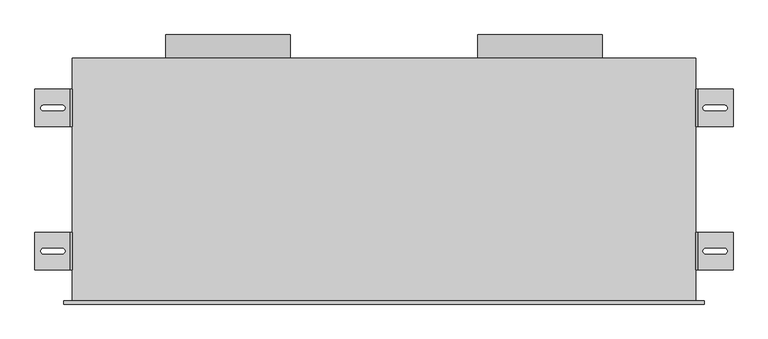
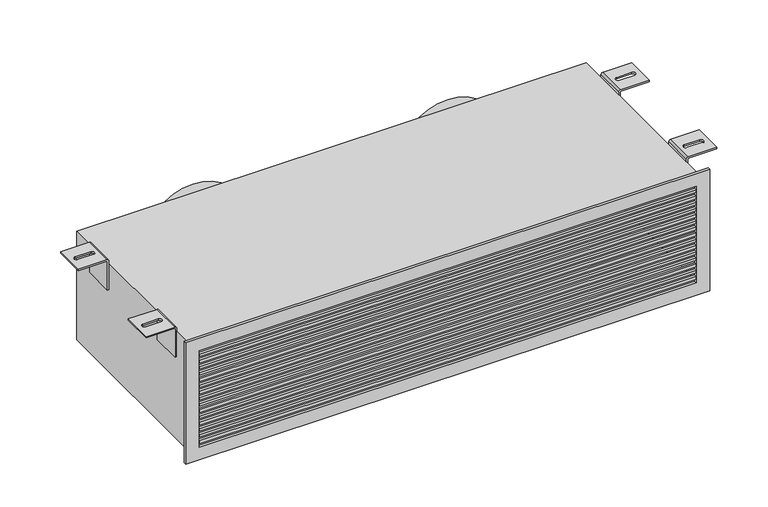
"""IFC4 building model written with IfcOpenShell, lengths in millimetres: air terminal geometry, EOL - Mural - 2 piquages : EOL-M2x200-1000x225-2."""

from ifc_helpers import new_model, si_unit, point, frame, frame_2d, origin, place, context, project, spatial, polyline, circle_curve, ellipse_curve, trimmed, segment, composite_curve, outline, extrude, source, transform, mapped, element, save
from ifc_brep_helpers import plane_surface, cylinder_surface, revolved_surface, extruded_surface, advanced_brep


def air_terminal_3425a1ed(model_context):
    return source(origin(), model_context, "Body", "SolidModel", [
        advanced_brep(
        [(504.0013366, 110.0, 121.5), (560.0, 110.0, 121.5), (560.0, 110.0, 118.5), (504.0, 110.0, 118.5), (503.0, 110.0, 117.5), (503.0, 110.0, 58.5), (500.0, 110.0, 58.5), (500.0, 110.0, 117.4986634), (504.0013366, 50.0, 121.5), (500.0, 50.0, 117.4986634), (500.0, 50.0, 58.5), (503.0, 50.0, 58.5), (503.0, 50.0, 117.5), (504.0, 50.0, 118.5), (560.0, 50.0, 118.5), (560.0, 50.0, 121.5), (546.0287952, 75.4804328, 121.5), (516.0287952, 75.4804328, 121.5), (516.0287952, 84.4804328, 121.5), (546.0287952, 84.4804328, 121.5), (516.0287952, 75.4804328, 118.5), (546.0287952, 75.4804328, 118.5), (546.0287952, 84.4804328, 118.5), (516.0287952, 84.4804328, 118.5)],
        [
            (0, 1),
            (1, 2),
            (2, 3),
            (3, 4, circle_curve(frame((504.0, 110.0, 117.5), z_axis=(0.0, -1.0, 0.0), x_axis=(-1.0000000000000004, 0.0, 0.0)), 1.0)),
            (4, 5),
            (5, 6),
            (6, 7),
            (7, 0, circle_curve(frame((504.0013366, 110.0, 117.4986634), z_axis=(0.0, 1.0, 0.0), x_axis=(-1.0000000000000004, 0.0, 0.0)), 4.0013366)),
            (8, 9, circle_curve(frame((504.0013366, 50.0, 117.4986634), z_axis=(0.0, -1.0, 0.0), x_axis=(-1.0000000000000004, 0.0, 0.0)), 4.0013366)),
            (9, 10),
            (10, 11),
            (11, 12),
            (12, 13, circle_curve(frame((504.0, 50.0, 117.5), z_axis=(0.0, 1.0, 0.0), x_axis=(-1.0000000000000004, 0.0, 0.0)), 1.0)),
            (13, 14),
            (14, 15),
            (15, 8),
            (0, 8),
            (15, 1),
            (16, 17),
            (17, 18, circle_curve(frame((516.0287952, 79.9804328, 121.5), z_axis=(0.0, 0.0, -1.0), x_axis=(0.0, -1.0, 0.0)), 4.5)),
            (18, 19),
            (19, 16, circle_curve(frame((546.0287952, 79.9804328, 121.5), z_axis=(0.0, 0.0, -1.0), x_axis=(0.0, -1.0, 0.0)), 4.5)),
            (14, 2),
            (13, 3),
            (20, 21),
            (21, 22, ellipse_curve(frame((546.0287952, 79.9804328, 118.5), z_axis=(0.0, 0.0, 1.0), x_axis=(0.0, -1.0, 0.0)), 4.5, 4.5)),
            (22, 23),
            (23, 20, ellipse_curve(frame((516.0287952, 79.9804328, 118.5), z_axis=(0.0, 0.0, 1.0), x_axis=(0.0, -1.0, 0.0)), 4.5, 4.5)),
            (12, 4),
            (11, 5),
            (10, 6),
            (9, 7),
            (16, 21),
            (20, 17),
            (19, 22),
            (18, 23),
        ],
        [
            plane_surface(frame((560.0, 110.0, 121.5), z_axis=(0.0, 1.0, 0.0), x_axis=(1.0, 0.0, 0.0))),
            plane_surface(frame((560.0, 50.0, 121.5), z_axis=(0.0, -1.0, 0.0), x_axis=(-1.0, 0.0, 0.0))),
            plane_surface(frame((504.0013366, 110.0, 121.5), z_axis=(0.0, 0.0, 1.0), x_axis=(0.0, -1.0, 0.0))),
            plane_surface(frame((560.0, 110.0, 121.5), z_axis=(1.0, 0.0, 0.0), x_axis=(0.0, -1.0, 0.0))),
            plane_surface(frame((560.0, 110.0, 118.5), z_axis=(0.0, 0.0, -1.0), x_axis=(0.0, -1.0, 0.0))),
            revolved_surface(polyline([(503.0, 50.0, 117.5), (503.0, 110.00000000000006, 117.5)]), (504.0, 50.0, 117.5), (0.0, -1.0000000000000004, 0.0)),
            plane_surface(frame((503.0, 110.0, 117.5), z_axis=(1.0, 0.0, 0.0), x_axis=(0.0, -1.0, 0.0))),
            plane_surface(frame((503.0, 110.0, 58.5), z_axis=(0.0, 0.0, -1.0), x_axis=(0.0, -1.0, 0.0))),
            plane_surface(frame((500.0, 110.0, 58.5), z_axis=(-1.0, 0.0, 0.0), x_axis=(0.0, -1.0, 0.0))),
            cylinder_surface(frame((504.0013366, 50.0, 117.4986634), z_axis=(0.0, 1.0000000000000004, 0.0), x_axis=(-1.0000000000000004, 0.0, 0.0)), 4.0013366),
            plane_surface(frame((516.0287952, 75.4804328, 121.5), z_axis=(0.0, 1.0, 0.0), x_axis=(0.0, 0.0, -1.0))),
            extruded_surface(trimmed(ellipse_curve(frame((546.0287952, 79.9804328, 118.5), z_axis=(0.0, 0.0, 1.0), x_axis=(0.0, -1.0, 0.0)), 4.5, 4.5), [point((546.0287952, 75.4804328, 118.5))], [point((546.0287952, 84.4804328, 118.5))], True, "CARTESIAN"), (0.0, 0.0, -3.0), 3.0),
            plane_surface(frame((546.0287952, 84.4804328, 121.5), z_axis=(0.0, -1.0, 0.0), x_axis=(0.0, 0.0, -1.0))),
            extruded_surface(trimmed(ellipse_curve(frame((516.0287952, 79.9804328, 118.5), z_axis=(0.0, 0.0, 1.0), x_axis=(0.0, -1.0, 0.0)), 4.5, 4.5), [point((516.0287952, 84.4804328, 118.5))], [point((516.0287952, 75.4804328, 118.5))], True, "CARTESIAN"), (0.0, 0.0, -3.0), 3.0),
        ],
        [
            (0, [[1, 2, 3, 4, 5, 6, 7, 8]]),
            (1, [[9, 10, 11, 12, 13, 14, 15, 16]]),
            (2, [[-1, 17, -16, 18], [19, 20, 21, 22]]),
            (3, [[-2, -18, -15, 23]]),
            (4, [[-3, -23, -14, 24], [25, 26, 27, 28]]),
            (5, [[-4, -24, -13, 29]]),
            (6, [[-5, -29, -12, 30]]),
            (7, [[-6, -30, -11, 31]]),
            (8, [[-7, -31, -10, 32]]),
            (9, [[-8, -32, -9, -17]]),
            (10, [[33, -25, 34, -19]]),
            (11, [[-33, -22, 35, -26]]),
            (12, [[-35, -21, 36, -27]]),
            (13, [[-34, -28, -36, -20]]),
        ],
    ),
        advanced_brep(
        [(504.0013366, 340.0, 121.5), (560.0, 340.0, 121.5), (560.0, 340.0, 118.5), (504.0, 340.0, 118.5), (503.0, 340.0, 117.5), (503.0, 340.0, 58.5), (500.0, 340.0, 58.5), (500.0, 340.0, 117.4986634), (504.0013366, 280.0, 121.5), (500.0, 280.0, 117.4986634), (500.0, 280.0, 58.5), (503.0, 280.0, 58.5), (503.0, 280.0, 117.5), (504.0, 280.0, 118.5), (560.0, 280.0, 118.5), (560.0, 280.0, 121.5), (546.0287952, 305.4804328, 121.5), (516.0287952, 305.4804328, 121.5), (516.0287952, 314.4804328, 121.5), (546.0287952, 314.4804328, 121.5), (516.0287952, 305.4804328, 118.5), (546.0287952, 305.4804328, 118.5), (546.0287952, 314.4804328, 118.5), (516.0287952, 314.4804328, 118.5)],
        [
            (0, 1),
            (1, 2),
            (2, 3),
            (3, 4, circle_curve(frame((504.0, 340.0, 117.5), z_axis=(0.0, -1.0, 0.0), x_axis=(-1.0, 0.0, 0.0)), 1.0)),
            (4, 5),
            (5, 6),
            (6, 7),
            (7, 0, circle_curve(frame((504.0013366, 340.0, 117.4986634), z_axis=(0.0, 1.0, 0.0), x_axis=(-1.0, 0.0, 0.0)), 4.0013366)),
            (8, 9, circle_curve(frame((504.0013366, 280.0, 117.4986634), z_axis=(0.0, -1.0, 0.0), x_axis=(-1.0, 0.0, 0.0)), 4.0013366)),
            (9, 10),
            (10, 11),
            (11, 12),
            (12, 13, circle_curve(frame((504.0, 280.0, 117.5), z_axis=(0.0, 1.0, 0.0), x_axis=(-1.0, 0.0, 0.0)), 1.0)),
            (13, 14),
            (14, 15),
            (15, 8),
            (0, 8),
            (15, 1),
            (16, 17),
            (17, 18, circle_curve(frame((516.0287952, 309.9804328, 121.5), z_axis=(0.0, 0.0, -1.0), x_axis=(0.0, -1.0, 0.0)), 4.5)),
            (18, 19),
            (19, 16, circle_curve(frame((546.0287952, 309.9804328, 121.5), z_axis=(0.0, 0.0, -1.0), x_axis=(0.0, -1.0, 0.0)), 4.5)),
            (14, 2),
            (13, 3),
            (20, 21),
            (21, 22, ellipse_curve(frame((546.0287952, 309.9804328, 118.5), z_axis=(0.0, 0.0, 1.0), x_axis=(0.0, -1.0, 0.0)), 4.5, 4.5)),
            (22, 23),
            (23, 20, ellipse_curve(frame((516.0287952, 309.9804328, 118.5), z_axis=(0.0, 0.0, 1.0), x_axis=(0.0, -1.0, 0.0)), 4.5, 4.5)),
            (12, 4),
            (11, 5),
            (10, 6),
            (9, 7),
            (16, 21),
            (20, 17),
            (19, 22),
            (18, 23),
        ],
        [
            plane_surface(frame((560.0, 340.0, 121.5), z_axis=(0.0, 1.0, 0.0), x_axis=(1.0, 0.0, 0.0))),
            plane_surface(frame((560.0, 280.0, 121.5), z_axis=(0.0, -1.0, 0.0), x_axis=(-1.0, 0.0, 0.0))),
            plane_surface(frame((504.0013366, 340.0, 121.5), z_axis=(0.0, 0.0, 1.0), x_axis=(0.0, -1.0, 0.0))),
            plane_surface(frame((560.0, 340.0, 121.5), z_axis=(1.0, 0.0, 0.0), x_axis=(0.0, -1.0, 0.0))),
            plane_surface(frame((560.0, 340.0, 118.5), z_axis=(0.0, 0.0, -1.0), x_axis=(0.0, -1.0, 0.0))),
            revolved_surface(polyline([(503.0, 280.0, 117.5), (503.0, 340.0, 117.5)]), (504.0, 280.0, 117.5), (0.0, -1.0, 0.0)),
            plane_surface(frame((503.0, 340.0, 117.5), z_axis=(1.0, 0.0, 0.0), x_axis=(0.0, -1.0, 0.0))),
            plane_surface(frame((503.0, 340.0, 58.5), z_axis=(0.0, 0.0, -1.0), x_axis=(0.0, -1.0, 0.0))),
            plane_surface(frame((500.0, 340.0, 58.5), z_axis=(-1.0, 0.0, 0.0), x_axis=(0.0, -1.0, 0.0))),
            cylinder_surface(frame((504.0013366, 280.0, 117.4986634), z_axis=(0.0, 1.0, 0.0), x_axis=(-1.0, 0.0, 0.0)), 4.0013366),
            plane_surface(frame((516.0287952, 305.4804328, 121.5), z_axis=(0.0, 1.0, 0.0), x_axis=(0.0, 0.0, -1.0))),
            extruded_surface(trimmed(ellipse_curve(frame((546.0287952, 309.9804328, 118.5), z_axis=(0.0, 0.0, 1.0), x_axis=(0.0, -1.0, 0.0)), 4.5, 4.5), [point((546.0287952, 305.4804328, 118.5))], [point((546.0287952, 314.4804328, 118.5))], True, "CARTESIAN"), (0.0, 0.0, -3.0), 3.0),
            plane_surface(frame((546.0287952, 314.4804328, 121.5), z_axis=(0.0, -1.0, 0.0), x_axis=(0.0, 0.0, -1.0))),
            extruded_surface(trimmed(ellipse_curve(frame((516.0287952, 309.9804328, 118.5), z_axis=(0.0, 0.0, 1.0), x_axis=(0.0, -1.0, 0.0)), 4.5, 4.5), [point((516.0287952, 314.4804328, 118.5))], [point((516.0287952, 305.4804328, 118.5))], True, "CARTESIAN"), (0.0, 0.0, -3.0), 3.0),
        ],
        [
            (0, [[1, 2, 3, 4, 5, 6, 7, 8]]),
            (1, [[9, 10, 11, 12, 13, 14, 15, 16]]),
            (2, [[-1, 17, -16, 18], [19, 20, 21, 22]]),
            (3, [[-2, -18, -15, 23]]),
            (4, [[-3, -23, -14, 24], [25, 26, 27, 28]]),
            (5, [[-4, -24, -13, 29]]),
            (6, [[-5, -29, -12, 30]]),
            (7, [[-6, -30, -11, 31]]),
            (8, [[-7, -31, -10, 32]]),
            (9, [[-8, -32, -9, -17]]),
            (10, [[33, -25, 34, -19]]),
            (11, [[-33, -22, 35, -26]]),
            (12, [[-35, -21, 36, -27]]),
            (13, [[-34, -28, -36, -20]]),
        ],
    ),
        advanced_brep(
        [(-504.0013366, 50.0, 121.5), (-560.0, 50.0, 121.5), (-560.0, 50.0, 118.5), (-504.0, 50.0, 118.5), (-503.0, 50.0, 117.5), (-503.0, 50.0, 58.5), (-500.0, 50.0, 58.5), (-500.0, 50.0, 117.4986634), (-504.0013366, 110.0, 121.5), (-500.0, 110.0, 117.4986634), (-500.0, 110.0, 58.5), (-503.0, 110.0, 58.5), (-503.0, 110.0, 117.5), (-504.0, 110.0, 118.5), (-560.0, 110.0, 118.5), (-560.0, 110.0, 121.5), (-546.0287952, 84.5195672, 121.5), (-516.0287952, 84.5195672, 121.5), (-516.0287952, 75.5195672, 121.5), (-546.0287952, 75.5195672, 121.5), (-516.0287952, 84.5195672, 118.5), (-546.0287952, 84.5195672, 118.5), (-546.0287952, 75.5195672, 118.5), (-516.0287952, 75.5195672, 118.5)],
        [
            (0, 1),
            (1, 2),
            (2, 3),
            (3, 4, circle_curve(frame((-504.0, 50.0, 117.5), z_axis=(0.0, 1.0, 0.0), x_axis=(1.0, 0.0, 0.0)), 1.0)),
            (4, 5),
            (5, 6),
            (6, 7),
            (7, 0, circle_curve(frame((-504.0013366, 50.0, 117.4986634), z_axis=(0.0, -1.0, 0.0), x_axis=(1.0, 0.0, 0.0)), 4.0013366)),
            (8, 9, circle_curve(frame((-504.0013366, 110.0, 117.4986634), z_axis=(0.0, 1.0, 0.0), x_axis=(1.0, 0.0, 0.0)), 4.0013366)),
            (9, 10),
            (10, 11),
            (11, 12),
            (12, 13, circle_curve(frame((-504.0, 110.0, 117.5), z_axis=(0.0, -1.0, 0.0), x_axis=(1.0, 0.0, 0.0)), 1.0)),
            (13, 14),
            (14, 15),
            (15, 8),
            (0, 8),
            (15, 1),
            (16, 17),
            (17, 18, circle_curve(frame((-516.0287952, 80.0195672, 121.5), z_axis=(0.0, 0.0, -1.0), x_axis=(0.0, 1.0, 0.0)), 4.5)),
            (18, 19),
            (19, 16, circle_curve(frame((-546.0287952, 80.0195672, 121.5), z_axis=(0.0, 0.0, -1.0), x_axis=(0.0, 1.0, 0.0)), 4.5)),
            (14, 2),
            (13, 3),
            (20, 21),
            (21, 22, ellipse_curve(frame((-546.0287952, 80.0195672, 118.5), z_axis=(0.0, 0.0, 1.0), x_axis=(0.0, 1.0, 0.0)), 4.5, 4.5)),
            (22, 23),
            (23, 20, ellipse_curve(frame((-516.0287952, 80.0195672, 118.5), z_axis=(0.0, 0.0, 1.0), x_axis=(0.0, 1.0, 0.0)), 4.5, 4.5)),
            (12, 4),
            (11, 5),
            (10, 6),
            (9, 7),
            (16, 21),
            (20, 17),
            (19, 22),
            (18, 23),
        ],
        [
            plane_surface(frame((-560.0, 50.0, 121.5), z_axis=(0.0, -1.0, 0.0), x_axis=(-1.0, 0.0, 0.0))),
            plane_surface(frame((-560.0, 110.0, 121.5), z_axis=(0.0, 1.0, 0.0), x_axis=(1.0, 0.0, 0.0))),
            plane_surface(frame((-504.0013366, 50.0, 121.5), z_axis=(0.0, 0.0, 1.0), x_axis=(0.0, 1.0, 0.0))),
            plane_surface(frame((-560.0, 50.0, 121.5), z_axis=(-1.0, 0.0, 0.0), x_axis=(0.0, 1.0, 0.0))),
            plane_surface(frame((-560.0, 50.0, 118.5), z_axis=(0.0, 0.0, -1.0), x_axis=(0.0, 1.0, 0.0))),
            revolved_surface(polyline([(-503.0, 110.0, 117.5), (-503.0, 50.0, 117.5)]), (-504.0, 110.0, 117.5), (0.0, 1.0, 0.0)),
            plane_surface(frame((-503.0, 50.0, 117.5), z_axis=(-1.0, 0.0, 0.0), x_axis=(0.0, 1.0, 0.0))),
            plane_surface(frame((-503.0, 50.0, 58.5), z_axis=(0.0, 0.0, -1.0), x_axis=(0.0, 1.0, 0.0))),
            plane_surface(frame((-500.0, 50.0, 58.5), z_axis=(1.0, 0.0, 0.0), x_axis=(0.0, 1.0, 0.0))),
            cylinder_surface(frame((-504.0013366, 110.0, 117.4986634), z_axis=(0.0, -1.0, 0.0), x_axis=(1.0, 0.0, 0.0)), 4.0013366),
            plane_surface(frame((-516.0287952, 84.5195672, 121.5), z_axis=(0.0, -1.0, 0.0), x_axis=(0.0, 0.0, -1.0))),
            extruded_surface(trimmed(ellipse_curve(frame((-546.0287952, 80.0195672, 118.5), z_axis=(0.0, 0.0, 1.0), x_axis=(0.0, 1.0, 0.0)), 4.5, 4.5), [point((-546.0287952, 84.5195672, 118.5))], [point((-546.0287952, 75.5195672, 118.5))], True, "CARTESIAN"), (0.0, 0.0, -3.0), 3.0),
            plane_surface(frame((-546.0287952, 75.5195672, 121.5), z_axis=(0.0, 1.0, 0.0), x_axis=(0.0, 0.0, -1.0))),
            extruded_surface(trimmed(ellipse_curve(frame((-516.0287952, 80.0195672, 118.5), z_axis=(0.0, 0.0, 1.0), x_axis=(0.0, 1.0, 0.0)), 4.5, 4.5), [point((-516.0287952, 75.5195672, 118.5))], [point((-516.0287952, 84.5195672, 118.5))], True, "CARTESIAN"), (0.0, 0.0, -3.0), 3.0),
        ],
        [
            (0, [[1, 2, 3, 4, 5, 6, 7, 8]]),
            (1, [[9, 10, 11, 12, 13, 14, 15, 16]]),
            (2, [[-1, 17, -16, 18], [19, 20, 21, 22]]),
            (3, [[-2, -18, -15, 23]]),
            (4, [[-3, -23, -14, 24], [25, 26, 27, 28]]),
            (5, [[-4, -24, -13, 29]]),
            (6, [[-5, -29, -12, 30]]),
            (7, [[-6, -30, -11, 31]]),
            (8, [[-7, -31, -10, 32]]),
            (9, [[-8, -32, -9, -17]]),
            (10, [[33, -25, 34, -19]]),
            (11, [[-33, -22, 35, -26]]),
            (12, [[-35, -21, 36, -27]]),
            (13, [[-34, -28, -36, -20]]),
        ],
    ),
        advanced_brep(
        [(-504.0013366, 280.0, 121.5), (-560.0, 280.0, 121.5), (-560.0, 280.0, 118.5), (-504.0, 280.0, 118.5), (-503.0, 280.0, 117.5), (-503.0, 280.0, 58.5), (-500.0, 280.0, 58.5), (-500.0, 280.0, 117.4986634), (-504.0013366, 340.0, 121.5), (-500.0, 340.0, 117.4986634), (-500.0, 340.0, 58.5), (-503.0, 340.0, 58.5), (-503.0, 340.0, 117.5), (-504.0, 340.0, 118.5), (-560.0, 340.0, 118.5), (-560.0, 340.0, 121.5), (-546.0287952, 314.5195672, 121.5), (-516.0287952, 314.5195672, 121.5), (-516.0287952, 305.5195672, 121.5), (-546.0287952, 305.5195672, 121.5), (-516.0287952, 314.5195672, 118.5), (-546.0287952, 314.5195672, 118.5), (-546.0287952, 305.5195672, 118.5), (-516.0287952, 305.5195672, 118.5)],
        [
            (0, 1),
            (1, 2),
            (2, 3),
            (3, 4, circle_curve(frame((-504.0, 280.0, 117.5), z_axis=(0.0, 1.0, 0.0), x_axis=(1.0, 0.0, 0.0)), 1.0)),
            (4, 5),
            (5, 6),
            (6, 7),
            (7, 0, circle_curve(frame((-504.0013366, 280.0, 117.4986634), z_axis=(0.0, -1.0, 0.0), x_axis=(1.0, 0.0, 0.0)), 4.0013366)),
            (8, 9, circle_curve(frame((-504.0013366, 340.0, 117.4986634), z_axis=(0.0, 1.0, 0.0), x_axis=(1.0, 0.0, 0.0)), 4.0013366)),
            (9, 10),
            (10, 11),
            (11, 12),
            (12, 13, circle_curve(frame((-504.0, 340.0, 117.5), z_axis=(0.0, -1.0, 0.0), x_axis=(1.0, 0.0, 0.0)), 1.0)),
            (13, 14),
            (14, 15),
            (15, 8),
            (0, 8),
            (15, 1),
            (16, 17),
            (17, 18, circle_curve(frame((-516.0287952, 310.0195672, 121.5), z_axis=(0.0, 0.0, -1.0), x_axis=(0.0, 1.0, 0.0)), 4.5)),
            (18, 19),
            (19, 16, circle_curve(frame((-546.0287952, 310.0195672, 121.5), z_axis=(0.0, 0.0, -1.0), x_axis=(0.0, 1.0, 0.0)), 4.5)),
            (14, 2),
            (13, 3),
            (20, 21),
            (21, 22, ellipse_curve(frame((-546.0287952, 310.0195672, 118.5), z_axis=(0.0, 0.0, 1.0), x_axis=(0.0, 1.0, 0.0)), 4.5, 4.5)),
            (22, 23),
            (23, 20, ellipse_curve(frame((-516.0287952, 310.0195672, 118.5), z_axis=(0.0, 0.0, 1.0), x_axis=(0.0, 1.0, 0.0)), 4.5, 4.5)),
            (12, 4),
            (11, 5),
            (10, 6),
            (9, 7),
            (16, 21),
            (20, 17),
            (19, 22),
            (18, 23),
        ],
        [
            plane_surface(frame((-560.0, 280.0, 121.5), z_axis=(0.0, -1.0, 0.0), x_axis=(-1.0, 0.0, 0.0))),
            plane_surface(frame((-560.0, 340.0, 121.5), z_axis=(0.0, 1.0, 0.0), x_axis=(1.0, 0.0, 0.0))),
            plane_surface(frame((-504.0013366, 280.0, 121.5), z_axis=(0.0, 0.0, 1.0), x_axis=(0.0, 1.0, 0.0))),
            plane_surface(frame((-560.0, 280.0, 121.5), z_axis=(-1.0, 0.0, 0.0), x_axis=(0.0, 1.0, 0.0))),
            plane_surface(frame((-560.0, 280.0, 118.5), z_axis=(0.0, 0.0, -1.0), x_axis=(0.0, 1.0, 0.0))),
            revolved_surface(polyline([(-503.0, 340.0, 117.5), (-503.0, 280.0, 117.5)]), (-504.0, 340.0, 117.5), (0.0, 1.0, 0.0)),
            plane_surface(frame((-503.0, 280.0, 117.5), z_axis=(-1.0, 0.0, 0.0), x_axis=(0.0, 1.0, 0.0))),
            plane_surface(frame((-503.0, 280.0, 58.5), z_axis=(0.0, 0.0, -1.0), x_axis=(0.0, 1.0, 0.0))),
            plane_surface(frame((-500.0, 280.0, 58.5), z_axis=(1.0, 0.0, 0.0), x_axis=(0.0, 1.0, 0.0))),
            cylinder_surface(frame((-504.0013366, 340.0, 117.4986634), z_axis=(0.0, -1.0, 0.0), x_axis=(1.0, 0.0, 0.0)), 4.0013366),
            plane_surface(frame((-516.0287952, 314.5195672, 121.5), z_axis=(0.0, -1.0, 0.0), x_axis=(0.0, 0.0, -1.0))),
            extruded_surface(trimmed(ellipse_curve(frame((-546.0287952, 310.0195672, 118.5), z_axis=(0.0, 0.0, 1.0), x_axis=(0.0, 1.0, 0.0)), 4.5, 4.5), [point((-546.0287952, 314.5195672, 118.5))], [point((-546.0287952, 305.5195672, 118.5))], True, "CARTESIAN"), (0.0, 0.0, -3.0), 3.0),
            plane_surface(frame((-546.0287952, 305.5195672, 121.5), z_axis=(0.0, 1.0, 0.0), x_axis=(0.0, 0.0, -1.0))),
            extruded_surface(trimmed(ellipse_curve(frame((-516.0287952, 310.0195672, 118.5), z_axis=(0.0, 0.0, 1.0), x_axis=(0.0, 1.0, 0.0)), 4.5, 4.5), [point((-516.0287952, 305.5195672, 118.5))], [point((-516.0287952, 314.5195672, 118.5))], True, "CARTESIAN"), (0.0, 0.0, -3.0), 3.0),
        ],
        [
            (0, [[1, 2, 3, 4, 5, 6, 7, 8]]),
            (1, [[9, 10, 11, 12, 13, 14, 15, 16]]),
            (2, [[-1, 17, -16, 18], [19, 20, 21, 22]]),
            (3, [[-2, -18, -15, 23]]),
            (4, [[-3, -23, -14, 24], [25, 26, 27, 28]]),
            (5, [[-4, -24, -13, 29]]),
            (6, [[-5, -29, -12, 30]]),
            (7, [[-6, -30, -11, 31]]),
            (8, [[-7, -31, -10, 32]]),
            (9, [[-8, -32, -9, -17]]),
            (10, [[33, -25, 34, -19]]),
            (11, [[-33, -22, 35, -26]]),
            (12, [[-35, -21, 36, -27]]),
            (13, [[-34, -28, -36, -20]]),
        ],
    ),
        extrude(outline(composite_curve([segment(trimmed(circle_curve(frame_2d((0.0, 250.0)), 100.0), [point((0.0, 150.0))], [point((0.0, 350.0))], False, "CARTESIAN"), True, "CONTINUOUS"), segment(trimmed(circle_curve(frame_2d((0.0, 250.0)), 100.0), [point((0.0, 350.0))], [point((0.0, 150.0))], False, "CARTESIAN"), True, "CONTINUOUS")], self_intersect=False), holes=[composite_curve([segment(trimmed(circle_curve(frame_2d((0.0, 250.0)), 99.0), [point((0.0, 349.0))], [point((0.0, 151.0))], True, "CARTESIAN"), True, "CONTINUOUS"), segment(trimmed(circle_curve(frame_2d((0.0, 250.0)), 99.0), [point((0.0, 151.0))], [point((0.0, 349.0))], True, "CARTESIAN"), True, "CONTINUOUS")], self_intersect=False)]), frame((0.0, 390.0, 0.0), z_axis=(0.0, 1.0, 0.0), x_axis=(0.0, 0.0, 1.0)), (0.0, 0.0, 1.0), 37.5),
        extrude(outline(composite_curve([segment(trimmed(circle_curve(frame_2d((0.0, -250.0)), 100.0), [point((0.0, -350.0))], [point((0.0, -150.0))], False, "CARTESIAN"), True, "CONTINUOUS"), segment(trimmed(circle_curve(frame_2d((0.0, -250.0)), 100.0), [point((0.0, -150.0))], [point((0.0, -350.0))], False, "CARTESIAN"), True, "CONTINUOUS")], self_intersect=False), holes=[composite_curve([segment(trimmed(circle_curve(frame_2d((0.0, -250.0)), 99.0), [point((0.0, -151.0))], [point((0.0, -349.0))], True, "CARTESIAN"), True, "CONTINUOUS"), segment(trimmed(circle_curve(frame_2d((0.0, -250.0)), 99.0), [point((0.0, -349.0))], [point((0.0, -151.0))], True, "CARTESIAN"), True, "CONTINUOUS")], self_intersect=False)]), frame((0.0, 390.0, 0.0), z_axis=(0.0, 1.0, 0.0), x_axis=(0.0, 0.0, 1.0)), (0.0, 0.0, 1.0), 37.5),
        extrude(outline(polyline([(487.5, 0.0), (487.5, -5.0), (-487.5, -5.0), (-487.5, 0.0), (487.5, 0.0)])), frame((0.0, 0.0, 87.15), z_axis=(0.0, 0.0, 1.0), x_axis=(1.0, 0.0, 0.0)), (0.0, 0.0, 1.0), 5.6),
        extrude(outline(polyline([(487.5, 0.0), (487.5, -5.0), (-487.5, -5.0), (-487.5, 0.0), (487.5, 0.0)])), frame((0.0, 0.0, 74.3), z_axis=(0.0, 0.0, 1.0), x_axis=(1.0, 0.0, 0.0)), (0.0, 0.0, 1.0), 5.6),
        extrude(outline(polyline([(487.5, 0.0), (487.5, -5.0), (-487.5, -5.0), (-487.5, 0.0), (487.5, 0.0)])), frame((0.0, 0.0, 61.45), z_axis=(0.0, 0.0, 1.0), x_axis=(1.0, 0.0, 0.0)), (0.0, 0.0, 1.0), 5.6),
        extrude(outline(polyline([(487.5, 0.0), (487.5, -5.0), (-487.5, -5.0), (-487.5, 0.0), (487.5, 0.0)])), frame((0.0, 0.0, 48.6), z_axis=(0.0, 0.0, 1.0), x_axis=(1.0, 0.0, 0.0)), (0.0, 0.0, 1.0), 5.6),
        extrude(outline(polyline([(487.5, 0.0), (487.5, -5.0), (-487.5, -5.0), (-487.5, 0.0), (487.5, 0.0)])), frame((0.0, 0.0, 35.75), z_axis=(0.0, 0.0, 1.0), x_axis=(1.0, 0.0, 0.0)), (0.0, 0.0, 1.0), 5.6),
        extrude(outline(polyline([(487.5, 0.0), (487.5, -5.0), (-487.5, -5.0), (-487.5, 0.0), (487.5, 0.0)])), frame((0.0, 0.0, 22.9), z_axis=(0.0, 0.0, 1.0), x_axis=(1.0, 0.0, 0.0)), (0.0, 0.0, 1.0), 5.6),
        extrude(outline(polyline([(487.5, 0.0), (487.5, -5.0), (-487.5, -5.0), (-487.5, 0.0), (487.5, 0.0)])), frame((0.0, 0.0, 10.05), z_axis=(0.0, 0.0, 1.0), x_axis=(1.0, 0.0, 0.0)), (0.0, 0.0, 1.0), 5.6),
        extrude(outline(polyline([(487.5, 0.0), (487.5, -5.0), (-487.5, -5.0), (-487.5, 0.0), (487.5, 0.0)])), frame((0.0, 0.0, -2.8), z_axis=(0.0, 0.0, 1.0), x_axis=(1.0, 0.0, 0.0)), (0.0, 0.0, 1.0), 5.6),
        extrude(outline(polyline([(487.5, 0.0), (487.5, -5.0), (-487.5, -5.0), (-487.5, 0.0), (487.5, 0.0)])), frame((0.0, 0.0, -15.65), z_axis=(0.0, 0.0, 1.0), x_axis=(1.0, 0.0, 0.0)), (0.0, 0.0, 1.0), 5.6),
        extrude(outline(polyline([(487.5, 0.0), (487.5, -5.0), (-487.5, -5.0), (-487.5, 0.0), (487.5, 0.0)])), frame((0.0, 0.0, -28.5), z_axis=(0.0, 0.0, 1.0), x_axis=(1.0, 0.0, 0.0)), (0.0, 0.0, 1.0), 5.6),
        extrude(outline(polyline([(487.5, 0.0), (487.5, -5.0), (-487.5, -5.0), (-487.5, 0.0), (487.5, 0.0)])), frame((0.0, 0.0, -41.35), z_axis=(0.0, 0.0, 1.0), x_axis=(1.0, 0.0, 0.0)), (0.0, 0.0, 1.0), 5.6),
        extrude(outline(polyline([(487.5, 0.0), (487.5, -5.0), (-487.5, -5.0), (-487.5, 0.0), (487.5, 0.0)])), frame((0.0, 0.0, -54.2), z_axis=(0.0, 0.0, 1.0), x_axis=(1.0, 0.0, 0.0)), (0.0, 0.0, 1.0), 5.6),
        extrude(outline(polyline([(487.5, 0.0), (487.5, -5.0), (-487.5, -5.0), (-487.5, 0.0), (487.5, 0.0)])), frame((0.0, 0.0, -67.05), z_axis=(0.0, 0.0, 1.0), x_axis=(1.0, 0.0, 0.0)), (0.0, 0.0, 1.0), 5.6),
        extrude(outline(polyline([(487.5, 0.0), (487.5, -5.0), (-487.5, -5.0), (-487.5, 0.0), (487.5, 0.0)])), frame((0.0, 0.0, -79.9), z_axis=(0.0, 0.0, 1.0), x_axis=(1.0, 0.0, 0.0)), (0.0, 0.0, 1.0), 5.6),
        extrude(outline(polyline([(487.5, 0.0), (487.5, -5.0), (-487.5, -5.0), (-487.5, 0.0), (487.5, 0.0)])), frame((0.0, 0.0, -92.75), z_axis=(0.0, 0.0, 1.0), x_axis=(1.0, 0.0, 0.0)), (0.0, 0.0, 1.0), 5.6),
        extrude(outline(polyline([(126.0, 514.0), (126.0, -514.0), (-126.0, -514.0), (-126.0, 514.0), (126.0, 514.0)]), holes=[polyline([(100.0, 487.5), (-100.0, 487.5), (-100.0, -487.5), (100.0, -487.5), (100.0, 487.5)])]), frame((0.0, -5.0, 0.0), z_axis=(0.0, 1.0, 0.0), x_axis=(0.0, 0.0, 1.0)), (0.0, 0.0, 1.0), 5.0),
        advanced_brep(
        [(500.0, 390.0, 112.5), (-500.0, 390.0, 112.5), (-500.0, 0.0, 112.5), (500.0, 0.0, 112.5), (500.0, 390.0, -112.5), (500.0, 0.0, -112.5), (-500.0, 0.0, -112.5), (-500.0, 390.0, -112.5), (151.0, 390.0, 0.0), (349.0, 390.0, 0.0), (-349.0, 390.0, 0.0), (-151.0, 390.0, 0.0), (-495.0, 0.0, 107.5), (495.0, 0.0, 107.5), (495.0, 0.0, -107.5), (-495.0, 0.0, -107.5), (495.0, 385.0, 107.5), (-495.0, 385.0, 107.5), (495.0, 385.0, -107.5), (-495.0, 385.0, -107.5), (349.0, 385.0, 0.0), (151.0, 385.0, 0.0), (-151.0, 385.0, 0.0), (-349.0, 385.0, 0.0)],
        [
            (0, 1),
            (1, 2),
            (2, 3),
            (3, 0),
            (4, 5),
            (5, 6),
            (6, 7),
            (7, 4),
            (0, 4),
            (7, 1),
            (8, 9, circle_curve(frame((250.0, 390.0, 0.0), z_axis=(0.0, -1.0, 0.0), x_axis=(1.0, 0.0, 0.0)), 99.0)),
            (9, 8, circle_curve(frame((250.0, 390.0, 0.0), z_axis=(0.0, -1.0, 0.0), x_axis=(1.0, 0.0, 0.0)), 99.0)),
            (10, 11, circle_curve(frame((-250.0, 390.0, 0.0), z_axis=(0.0, -1.0, 0.0), x_axis=(1.0, 0.0, 0.0)), 99.0)),
            (11, 10, circle_curve(frame((-250.0, 390.0, 0.0), z_axis=(0.0, -1.0, 0.0), x_axis=(1.0, 0.0, 0.0)), 99.0)),
            (6, 2),
            (5, 3),
            (12, 13),
            (13, 14),
            (14, 15),
            (15, 12),
            (16, 13),
            (12, 17),
            (17, 16),
            (18, 19),
            (19, 15),
            (14, 18),
            (17, 19),
            (18, 16),
            (20, 21, circle_curve(frame((250.0, 385.0, 0.0), z_axis=(0.0, 1.0, 0.0), x_axis=(1.0, 0.0, 0.0)), 99.0)),
            (21, 20, circle_curve(frame((250.0, 385.0, 0.0), z_axis=(0.0, 1.0, 0.0), x_axis=(1.0, 0.0, 0.0)), 99.0)),
            (22, 23, circle_curve(frame((-250.0, 385.0, 0.0), z_axis=(0.0, 1.0, 0.0), x_axis=(1.0, 0.0, 0.0)), 99.0)),
            (23, 22, circle_curve(frame((-250.0, 385.0, 0.0), z_axis=(0.0, 1.0, 0.0), x_axis=(1.0, 0.0, 0.0)), 99.0)),
            (8, 21),
            (20, 9),
            (10, 23),
            (22, 11),
        ],
        [
            plane_surface(frame((-500.0, 390.0, 112.5), z_axis=(0.0, 0.0, 1.0), x_axis=(-1.0, 0.0, 0.0))),
            plane_surface(frame((-500.0, 390.0, -112.5), z_axis=(0.0, 0.0, -1.0), x_axis=(1.0, 0.0, 0.0))),
            plane_surface(frame((500.0, 390.0, 112.5), z_axis=(0.0, 1.0, 0.0), x_axis=(0.0, 0.0, -1.0))),
            plane_surface(frame((-500.0, 390.0, 112.5), z_axis=(-1.0, 0.0, 0.0), x_axis=(0.0, 0.0, -1.0))),
            plane_surface(frame((-500.0, 0.0, 112.5), z_axis=(0.0, -1.0, 0.0), x_axis=(0.0, 0.0, -1.0))),
            plane_surface(frame((500.0, 0.0, 112.5), z_axis=(1.0, 0.0, 0.0), x_axis=(0.0, 0.0, -1.0))),
            plane_surface(frame((-495.0, 385.0, 107.5), z_axis=(0.0, 0.0, -1.0), x_axis=(-1.0, 0.0, 0.0))),
            plane_surface(frame((-495.0, 385.0, -107.5), z_axis=(0.0, 0.0, 1.0), x_axis=(1.0, 0.0, 0.0))),
            plane_surface(frame((495.0, 385.0, 107.5), z_axis=(0.0, -1.0, 0.0), x_axis=(0.0, 0.0, -1.0))),
            plane_surface(frame((-495.0, 385.0, 107.5), z_axis=(1.0, 0.0, 0.0), x_axis=(0.0, 0.0, -1.0))),
            plane_surface(frame((495.0, 0.0, 107.5), z_axis=(-1.0, 0.0, 0.0), x_axis=(0.0, 0.0, -1.0))),
            revolved_surface(polyline([(349.0, 385.0, 0.0), (349.0, 390.0, 0.0)]), (250.0, 427.5, 0.0), (0.0, -1.0, 0.0)),
            revolved_surface(polyline([(-151.0, 385.0, 0.0), (-151.0, 390.0, 0.0)]), (-250.0, 0.0, 0.0), (0.0, -1.0, 0.0)),
        ],
        [
            (0, [[1, 2, 3, 4]]),
            (1, [[5, 6, 7, 8]]),
            (2, [[-1, 9, -8, 10], [11, 12], [13, 14]]),
            (3, [[-2, -10, -7, 15]]),
            (4, [[-3, -15, -6, 16], [17, 18, 19, 20]]),
            (5, [[-4, -16, -5, -9]]),
            (6, [[21, -17, 22, 23]]),
            (7, [[24, 25, -19, 26]]),
            (8, [[-23, 27, -24, 28], [29, 30], [31, 32]]),
            (9, [[-22, -20, -25, -27]]),
            (10, [[-21, -28, -26, -18]]),
            (11, [[33, -29, 34, -11]]),
            (11, [[-33, -12, -34, -30]]),
            (12, [[35, -31, 36, -13]]),
            (12, [[-35, -14, -36, -32]]),
        ],
    ),
    ])


if __name__ == "__main__":
    model = new_model("IFC4")
    model_context = context("Model", 3, world=origin())
    ifc_project = project(units=[si_unit("LENGTHUNIT", "METRE", prefix="MILLI")], contexts=[model_context])
    site = spatial("IfcSite", under=ifc_project)
    building = spatial("IfcBuilding", under=site)
    placement = place(None, origin())
    air_terminal_shape = air_terminal_3425a1ed(model_context)
    element("IfcAirTerminal", 1, ObjectType="EOL - Mural - 2 piquages : EOL-M2x200-1000x225-2", at=placement, inside=building, context=model_context, shape_type="MappedRepresentation", body=[
        mapped(air_terminal_shape, transform((0.0, 0.0, 0.0), x_axis=(1.0, 0.0, 0.0), y_axis=(0.0, 1.0, 0.0), z_axis=(0.0, 0.0, 1.0))),
    ])
    save(model, "model.ifc")
